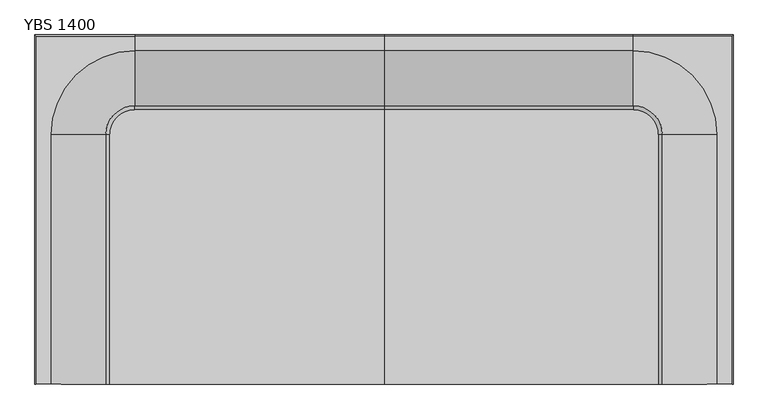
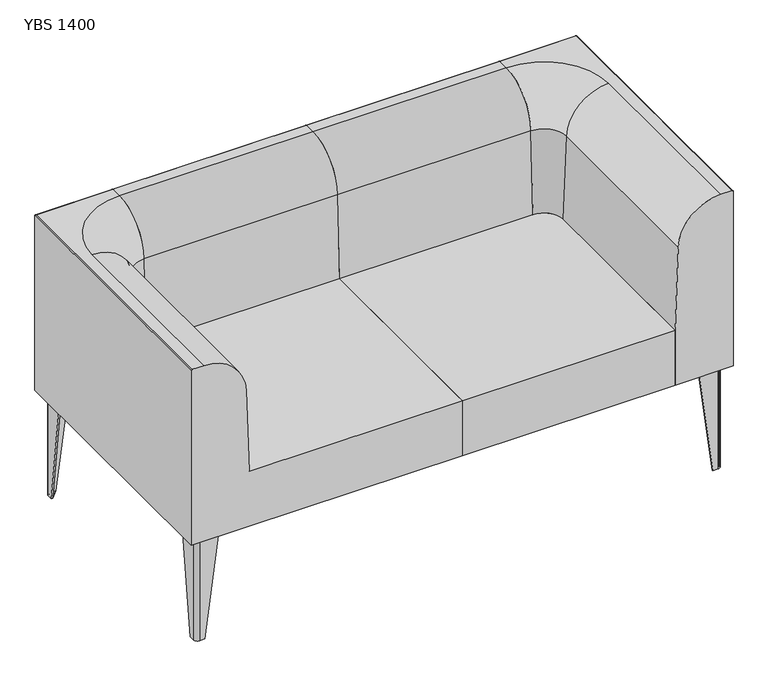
"""IFC4 building model written with IfcOpenShell, lengths in millimetres: furniture geometry, Mobiliário_Mobiliário de Escritório_LinhaYoung_Sofa Braço (Aço) - YB_Marelli : YBS 1400."""

import ifcopenshell
import ifcopenshell.guid

model = None  # the IFC model being written
_history = None  # IfcOwnerHistory: only IFC2X3 demands one
_inside = {}  # id of a spatial element -> (the spatial element, [elements in it])
_under = {}  # id of a project, library or spatial element -> (it, [spatial elements below it])
_declared = {}  # id of a project -> (the project, [libraries it declares])
_typed = {}  # id of a type object -> (the type object, [elements of that type])
_made_of = {}  # id of a material, layer set ... -> (it, [elements and type objects made of it])


def new_model(schema):
    """Start an empty IFC model of exactly this schema.

    Asked for "IFC4X3", IfcOpenShell would pick the latest addendum, in which some entities
    have other attributes; the version numbers below select the first issue.
    IFC2X3 requires an IfcOwnerHistory on every rooted entity: one is made here for all.
    """
    global model, _history
    if schema == "IFC4X3":
        model = ifcopenshell.file(schema_version=(4, 3, 0, 0))
    else:
        model = ifcopenshell.file(schema=schema)
    _inside.clear()
    _under.clear()
    _declared.clear()
    _typed.clear()
    _made_of.clear()
    _history = None
    if model.schema == "IFC2X3":
        org = make("IfcOrganization", Name="unknown")
        user = make(
            "IfcPersonAndOrganization",
            ThePerson=make("IfcPerson", FamilyName="unknown"),
            TheOrganization=org,
        )
        app = make(
            "IfcApplication",
            ApplicationDeveloper=org,
            Version="unknown",
            ApplicationFullName="unknown",
            ApplicationIdentifier="unknown",
        )
        _history = make(
            "IfcOwnerHistory",
            OwningUser=user,
            OwningApplication=app,
            ChangeAction="ADDED",
            CreationDate=0,
        )
    return model


def make(cls, **values):
    """One entity of the class cls with the attributes given. An attribute that is None is left unset."""
    return model.create_entity(
        cls, **{name: value for name, value in values.items() if value is not None}
    )


def rooted(cls, **values):
    """An entity with a GlobalId (a new one), such as an element, a storey or a relation."""
    return make(cls, GlobalId=ifcopenshell.guid.new(), OwnerHistory=_history, **values)


def si_unit(unit_type, name, prefix=None):
    """IfcSIUnit, for example si_unit("LENGTHUNIT", "METRE", prefix="MILLI")."""
    return make("IfcSIUnit", UnitType=unit_type, Prefix=prefix, Name=name)


def assignment(units):
    """IfcUnitAssignment: the units of a project."""
    return None if units is None else make("IfcUnitAssignment", Units=units)


def point(xyz):
    """IfcCartesianPoint."""
    return None if xyz is None else make("IfcCartesianPoint", Coordinates=xyz)


def direction(xyz):
    """IfcDirection."""
    return None if xyz is None else make("IfcDirection", DirectionRatios=xyz)


def frame(location, z_axis=None, x_axis=None):
    """IfcAxis2Placement3D, a coordinate frame: its origin and axes. An axis left out is left unset."""
    return make(
        "IfcAxis2Placement3D",
        Location=point(location),
        Axis=direction(z_axis),
        RefDirection=direction(x_axis),
    )


def frame_2d(location, x_axis=None):
    """IfcAxis2Placement2D, a coordinate frame in the plane: its origin and x axis."""
    return make(
        "IfcAxis2Placement2D", Location=point(location), RefDirection=direction(x_axis)
    )


def origin():
    """The frame at (0, 0, 0) with its axes left unset."""
    return frame((0.0, 0.0, 0.0))


def origin_with_axes():
    """The frame at (0, 0, 0) with the z axis (0, 0, 1) and the x axis (1, 0, 0) written out."""
    return frame((0.0, 0.0, 0.0), z_axis=(0.0, 0.0, 1.0), x_axis=(1.0, 0.0, 0.0))


def place(relative_to, where):
    """IfcLocalPlacement: puts the frame where relative to a parent placement (None: the world)."""
    return make(
        "IfcLocalPlacement", PlacementRelTo=relative_to, RelativePlacement=where
    )


def context(
    kind, dimensions, precision=None, world=None, true_north=None, identifier=None
):
    """IfcGeometricRepresentationContext, for example the 3D "Model" context."""
    return make(
        "IfcGeometricRepresentationContext",
        ContextIdentifier=identifier,
        ContextType=kind,
        CoordinateSpaceDimension=dimensions,
        Precision=precision,
        WorldCoordinateSystem=world,
        TrueNorth=true_north,
    )


def project(units=None, contexts=None):
    """IfcProject with its units and contexts."""
    return rooted(
        "IfcProject",
        Name="project",
        RepresentationContexts=contexts,
        UnitsInContext=assignment(units),
    )


def spatial(cls, under=None, at=None, **own):
    """A site, building, storey or space (cls), placed at a placement, below another one or the project."""
    s = rooted(cls, ObjectPlacement=at, **own)
    if under is not None:
        _under.setdefault(under.id(), (under, []))[1].append(s)
    return s


def polyline(points):
    """IfcPolyline through the points."""
    return make("IfcPolyline", Points=[point(p) for p in points])


def circle_curve(where, radius):
    """IfcCircle in the frame where."""
    return make("IfcCircle", Position=where, Radius=radius)


def ellipse_curve(where, semi_axis1, semi_axis2):
    """IfcEllipse in the frame where."""
    return make(
        "IfcEllipse", Position=where, SemiAxis1=semi_axis1, SemiAxis2=semi_axis2
    )


def trimmed(basis, trim1, trim2, sense, master):
    """IfcTrimmedCurve: the piece of a basis curve between two trims."""
    return make(
        "IfcTrimmedCurve",
        BasisCurve=basis,
        Trim1=trim1,
        Trim2=trim2,
        SenseAgreement=sense,
        MasterRepresentation=master,
    )


def segment(curve, same_sense, transition):
    """IfcCompositeCurveSegment."""
    return make(
        "IfcCompositeCurveSegment",
        Transition=transition,
        SameSense=same_sense,
        ParentCurve=curve,
    )


def composite_curve(segments, self_intersect=None):
    """IfcCompositeCurve: segments joined end to end."""
    return make("IfcCompositeCurve", Segments=segments, SelfIntersect=self_intersect)


def outline(outer, holes=None, kind="AREA"):
    """IfcArbitraryClosedProfileDef: a profile drawn as a closed curve; with holes, ...WithVoids."""
    if holes is None:
        return make("IfcArbitraryClosedProfileDef", ProfileType=kind, OuterCurve=outer)
    return make(
        "IfcArbitraryProfileDefWithVoids",
        ProfileType=kind,
        OuterCurve=outer,
        InnerCurves=holes,
    )


def extrude(swept, where, along, depth):
    """IfcExtrudedAreaSolid: the profile swept, set in the frame where, extruded along a direction by depth."""
    return make(
        "IfcExtrudedAreaSolid",
        SweptArea=swept,
        Position=where,
        ExtrudedDirection=direction(along),
        Depth=depth,
    )


def shape(context_of_items, identifier, shape_type, items):
    """IfcShapeRepresentation: the items that make up one representation, for example the "Body"."""
    return make(
        "IfcShapeRepresentation",
        ContextOfItems=context_of_items,
        RepresentationIdentifier=identifier,
        RepresentationType=shape_type,
        Items=items,
    )


def source(mapping_origin, context_of_items, identifier, shape_type, items):
    """IfcRepresentationMap: a shape defined once, which mapped items show again and again."""
    return make(
        "IfcRepresentationMap",
        MappingOrigin=mapping_origin,
        MappedRepresentation=shape(context_of_items, identifier, shape_type, items),
    )


def transform(
    local_origin,
    x_axis=None,
    y_axis=None,
    z_axis=None,
    scale=None,
    scale2=None,
    scale3=None,
    uniform=True,
):
    """IfcCartesianTransformationOperator3D, or its non-uniform kind. x_axis, y_axis, z_axis: its Axis1, 2, 3."""
    if uniform:
        return make(
            "IfcCartesianTransformationOperator3D",
            Axis1=direction(x_axis),
            Axis2=direction(y_axis),
            LocalOrigin=point(local_origin),
            Scale=scale,
            Axis3=direction(z_axis),
        )
    return make(
        "IfcCartesianTransformationOperator3DnonUniform",
        Axis1=direction(x_axis),
        Axis2=direction(y_axis),
        LocalOrigin=point(local_origin),
        Scale=scale,
        Axis3=direction(z_axis),
        Scale2=scale2,
        Scale3=scale3,
    )


def mapped(mapping_source, mapping_target):
    """IfcMappedItem: shows the shape of a source again, moved by a transform."""
    return make(
        "IfcMappedItem", MappingSource=mapping_source, MappingTarget=mapping_target
    )


def made_of(thing, what):
    """Note that an element or type object is made of a material, layer set ...; save() writes the relation."""
    if what is not None:
        _made_of.setdefault(what.id(), (what, []))[1].append(thing)
    return thing


def element(
    cls,
    number,
    at=None,
    inside=None,
    cuts=None,
    type_object=None,
    material=None,
    context=None,
    identifier="Body",
    shape_type=None,
    held_by="IfcProductDefinitionShape",
    body=None,
    shapes=None,
    **own,
):
    """One element of the class cls, such as IfcWall. Its Tag is "e" and its number.

    at: its placement. inside: the storey or other place that contains it. cuts: it is an
    opening in that element (IfcRelVoidsElement). A single representation is given by context,
    identifier, shape_type and body (its items); several are given by shapes. held_by: the class
    of the entity that holds the representations. save() writes the other relations.
    """
    e = rooted(cls, Tag="e%d" % number, ObjectPlacement=at, **own)
    if body is not None:
        shapes = [shape(context, identifier, shape_type, body)]
    if shapes is not None:
        e.Representation = make(held_by, Representations=shapes)
    if inside is not None:
        _inside.setdefault(inside.id(), (inside, []))[1].append(e)
    if cuts is not None:
        rooted(
            "IfcRelVoidsElement", RelatingBuildingElement=cuts, RelatedOpeningElement=e
        )
    if type_object is not None:
        _typed.setdefault(type_object.id(), (type_object, []))[1].append(e)
    return made_of(e, material)


def aggregate(whole, parts):
    """IfcRelAggregates: a whole, such as a stair, and the parts it consists of."""
    return rooted("IfcRelAggregates", RelatingObject=whole, RelatedObjects=parts)


def save(model, path):
    """Write the relations noted so far, then the file.

    IfcRelAggregates (storeys below a building ...), IfcRelContainedInSpatialStructure (elements
    in a storey), IfcRelDefinesByType, IfcRelAssociatesMaterial and IfcRelDeclares: one each for
    every whole, place, type object, material and project.
    """
    for whole, parts in _under.values():
        aggregate(whole, parts)
    for where, things in _inside.values():
        rooted(
            "IfcRelContainedInSpatialStructure",
            RelatedElements=things,
            RelatingStructure=where,
        )
    for kind, things in _typed.values():
        rooted("IfcRelDefinesByType", RelatedObjects=things, RelatingType=kind)
    for what, things in _made_of.values():
        rooted("IfcRelAssociatesMaterial", RelatedObjects=things, RelatingMaterial=what)
    for by, libraries in _declared.values():
        rooted("IfcRelDeclares", RelatingContext=by, RelatedDefinitions=libraries)
    model.write(path)


def plane_surface(at):
    """IfcPlane: the flat surface through the origin of the frame at, square to its z axis."""
    return make("IfcPlane", Position=at)


def cylinder_surface(at, radius):
    """IfcCylindricalSurface: all points at the distance radius from the z axis of the frame at."""
    return make("IfcCylindricalSurface", Position=at, Radius=radius)


def revolved_surface(curve, axis_point, axis_direction):
    """IfcSurfaceOfRevolution: the curve turned about the line through axis_point along axis_direction."""
    return make(
        "IfcSurfaceOfRevolution",
        SweptCurve=make("IfcArbitraryOpenProfileDef", ProfileType="CURVE", Curve=curve),
        AxisPosition=make("IfcAxis1Placement", Location=point(axis_point), Axis=direction(axis_direction)),
    )


def advanced_brep(points, edges, surfaces, faces):
    """IfcAdvancedBrep: a solid bounded by faces that lie on surfaces and meet in shared edges.

    An edge is (start, end): straight between two places in points (the first is 0);
    or (start, end, curve); or (start, end, curve, False) where it runs against its curve.
    A face is (place in surfaces, loops), or (place, loops, False) where it looks against
    its surface's normal. A loop lists edges by number (the first is 1), with a minus sign
    where the edge is run from its end to its start. The first loop is the outer one.
    """
    corners = [point(p) for p in points]
    vertices = [make("IfcVertexPoint", VertexGeometry=c) for c in corners]
    made = []
    for start, end, *more in edges:
        made.append(
            make(
                "IfcEdgeCurve",
                EdgeStart=vertices[start],
                EdgeEnd=vertices[end],
                EdgeGeometry=more[0] if more else make("IfcPolyline", Points=[corners[start], corners[end]]),
                SameSense=more[1] if len(more) > 1 else True,
            )
        )
    hull = []
    for where, loops, *sense in faces:
        bounds = []
        for j, loop in enumerate(loops):
            ring = [make("IfcOrientedEdge", EdgeElement=made[abs(k) - 1], Orientation=k > 0) for k in loop]
            bounds.append(
                make(
                    "IfcFaceOuterBound" if j == 0 else "IfcFaceBound",
                    Bound=make("IfcEdgeLoop", EdgeList=ring),
                    Orientation=True,
                )
            )
        hull.append(make("IfcAdvancedFace", Bounds=bounds, FaceSurface=surfaces[where], SameSense=sense[0] if sense else True))
    return make("IfcAdvancedBrep", Outer=make("IfcClosedShell", CfsFaces=hull))


def ybs_1400_8f39f51c(model_context):
    return source(origin(), model_context, "Body", "SolidModel", [
        advanced_brep(
        [(20.0, 75.0, 280.0), (20.0, 25.0, 280.0), (30.0, 15.0, 280.0), (80.0, 15.0, 280.0), (80.0, 18.0, 280.0), (30.0, 18.0, 280.0), (23.0, 25.0, 280.0), (23.0, 75.0, 280.0), (20.0, 39.0, 0.0), (23.0, 39.0, 0.0), (23.0, 25.0, 0.0), (30.0, 18.0, 0.0), (44.0, 18.0, 0.0), (44.0, 15.0, 0.0), (30.0, 15.0, 0.0), (20.0, 25.0, 0.0)],
        [
            (0, 1),
            (1, 2, circle_curve(frame((30.0, 25.0, 280.0), z_axis=(0.0, 0.0, 1.0), x_axis=(0.0, -1.0, 0.0)), 10.0)),
            (2, 3),
            (3, 4),
            (4, 5),
            (5, 6, circle_curve(frame((30.0, 25.0, 280.0), z_axis=(0.0, 0.0, -1.0), x_axis=(-1.0, 0.0, 0.0)), 7.0)),
            (6, 7),
            (7, 0),
            (8, 9),
            (9, 10),
            (10, 11, circle_curve(frame((30.0, 25.0, 0.0), z_axis=(0.0, 0.0, 1.0), x_axis=(-1.0, 0.0, 0.0)), 7.0)),
            (11, 12),
            (12, 13),
            (13, 14),
            (14, 15, circle_curve(frame((30.0, 25.0, 0.0), z_axis=(0.0, 0.0, -1.0), x_axis=(0.0, -1.0, 0.0)), 10.0)),
            (15, 8),
            (15, 1),
            (0, 8),
            (14, 2),
            (13, 3),
            (12, 4),
            (11, 5),
            (10, 6),
            (9, 7),
        ],
        [
            plane_surface(frame((38.25, 33.25, 280.0), z_axis=(0.0, 0.0, 1.0), x_axis=(0.0, -1.0, 0.0))),
            plane_surface(frame((29.25, 24.25, 0.0), z_axis=(0.0, 0.0, -1.0), x_axis=(0.0, -1.0, 0.0))),
            plane_surface(frame((20.0, 32.0, 0.0), z_axis=(-1.0, 0.0, 0.0), x_axis=(0.0, -1.0, 0.0))),
            cylinder_surface(frame((30.0, 25.0, 0.0), z_axis=(0.0, 0.0, 1.0), x_axis=(0.0, -1.0, 0.0)), 10.0),
            plane_surface(frame((37.0, 15.0, 0.0), z_axis=(0.0, -1.0, 0.0), x_axis=(1.0, 0.0, 0.0))),
            plane_surface(frame((44.0, 16.5, 0.0), z_axis=(0.9918357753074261, 0.0, -0.12752174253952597), x_axis=(0.0, 1.0, 0.0))),
            plane_surface(frame((37.0, 18.0, 0.0), z_axis=(0.0, 1.0, 0.0), x_axis=(-1.0, 0.0, 0.0))),
            revolved_surface(polyline([(23.0, 25.0, 280.0), (23.0, 25.0, 0.0)]), (30.0, 25.0, 0.0), (0.0, 0.0, 1.0)),
            plane_surface(frame((23.0, 32.0, 0.0), z_axis=(1.0, 0.0, 0.0), x_axis=(0.0, 1.0, 0.0))),
            plane_surface(frame((21.5, 39.0, 0.0), z_axis=(0.0, 0.9918357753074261, -0.12752174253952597), x_axis=(-1.0, 0.0, 0.0))),
        ],
        [
            (0, [[1, 2, 3, 4, 5, 6, 7, 8]]),
            (1, [[9, 10, 11, 12, 13, 14, 15, 16]]),
            (2, [[-16, 17, -1, 18]]),
            (3, [[-15, 19, -2, -17]]),
            (4, [[-14, 20, -3, -19]]),
            (5, [[-13, 21, -4, -20]]),
            (6, [[-12, 22, -5, -21]]),
            (7, [[-11, 23, -6, -22]]),
            (8, [[-10, 24, -7, -23]]),
            (9, [[-9, -18, -8, -24]]),
        ],
    ),
        advanced_brep(
        [(1380.0, 75.0, 280.0), (1377.0, 75.0, 280.0), (1377.0, 25.0, 280.0), (1370.0, 18.0, 280.0), (1320.0, 18.0, 280.0), (1320.0, 15.0, 280.0), (1370.0, 15.0, 280.0), (1380.0, 25.0, 280.0), (1380.0, 39.0, 0.0), (1380.0, 25.0, 0.0), (1370.0, 15.0, 0.0), (1356.0, 15.0, 0.0), (1356.0, 18.0, 0.0), (1370.0, 18.0, 0.0), (1377.0, 25.0, 0.0), (1377.0, 39.0, 0.0)],
        [
            (0, 1),
            (1, 2),
            (2, 3, circle_curve(frame((1370.0, 25.0, 280.0), z_axis=(0.0, 0.0, -1.0), x_axis=(0.0, -1.0, 0.0)), 7.0)),
            (3, 4),
            (4, 5),
            (5, 6),
            (6, 7, circle_curve(frame((1370.0, 25.0, 280.0), z_axis=(0.0, 0.0, 1.0), x_axis=(1.0, 0.0, 0.0)), 10.0)),
            (7, 0),
            (8, 9),
            (9, 10, circle_curve(frame((1370.0, 25.0, 0.0), z_axis=(0.0, 0.0, -1.0), x_axis=(1.0, 0.0, 0.0)), 10.0)),
            (10, 11),
            (11, 12),
            (12, 13),
            (13, 14, circle_curve(frame((1370.0, 25.0, 0.0), z_axis=(0.0, 0.0, 1.0), x_axis=(0.0, -1.0, 0.0)), 7.0)),
            (14, 15),
            (15, 8),
            (8, 0),
            (7, 9),
            (6, 10),
            (5, 11),
            (4, 12),
            (3, 13),
            (2, 14),
            (1, 15),
        ],
        [
            plane_surface(frame((1361.75, 33.25, 280.0), z_axis=(0.0, 0.0, 1.0), x_axis=(-1.0, 0.0, 0.0))),
            plane_surface(frame((1370.75, 24.25, 0.0), z_axis=(0.0, 0.0, -1.0), x_axis=(-1.0, 0.0, 0.0))),
            plane_surface(frame((1380.0, 32.0, 0.0), z_axis=(1.0, 0.0, 0.0), x_axis=(0.0, 1.0, 0.0))),
            cylinder_surface(frame((1370.0, 25.0, 0.0), z_axis=(0.0, 0.0, 1.0), x_axis=(1.0, 0.0, 0.0)), 10.0),
            plane_surface(frame((1363.0, 15.0, 0.0), z_axis=(0.0, -1.0, 0.0), x_axis=(1.0, 0.0, 0.0))),
            plane_surface(frame((1356.0, 16.5, 0.0), z_axis=(-0.991835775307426, 0.0, -0.12752174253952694), x_axis=(0.0, -1.0, 0.0))),
            plane_surface(frame((1363.0, 18.0, 0.0), z_axis=(0.0, 1.0, 0.0), x_axis=(-1.0, 0.0, 0.0))),
            revolved_surface(polyline([(1370.0, 18.0, 280.0), (1370.0, 18.0, 0.0)]), (1370.0, 25.0, 0.0), (0.0, 0.0, 1.0)),
            plane_surface(frame((1377.0, 32.0, 0.0), z_axis=(-1.0, 0.0, 0.0), x_axis=(0.0, -1.0, 0.0))),
            plane_surface(frame((1378.5, 39.0, 0.0), z_axis=(0.0, 0.9918357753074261, -0.12752174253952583), x_axis=(-1.0, 0.0, 0.0))),
        ],
        [
            (0, [[1, 2, 3, 4, 5, 6, 7, 8]]),
            (1, [[9, 10, 11, 12, 13, 14, 15, 16]]),
            (2, [[-9, 17, -8, 18]]),
            (3, [[-10, -18, -7, 19]]),
            (4, [[-11, -19, -6, 20]]),
            (5, [[-12, -20, -5, 21]]),
            (6, [[-13, -21, -4, 22]]),
            (7, [[-14, -22, -3, 23]]),
            (8, [[-15, -23, -2, 24]]),
            (9, [[-16, -24, -1, -17]]),
        ],
    ),
        advanced_brep(
        [(20.0, 625.0, 280.0), (23.0, 625.0, 280.0), (23.0, 675.0, 280.0), (30.0, 682.0, 280.0), (80.0, 682.0, 280.0), (80.0, 685.0, 280.0), (30.0, 685.0, 280.0), (20.0, 675.0, 280.0), (20.0, 661.0, 0.0), (20.0, 675.0, 0.0), (30.0, 685.0, 0.0), (44.0, 685.0, 0.0), (44.0, 682.0, 0.0), (30.0, 682.0, 0.0), (23.0, 675.0, 0.0), (23.0, 661.0, 0.0)],
        [
            (0, 1),
            (1, 2),
            (2, 3, circle_curve(frame((30.0, 675.0, 280.0), z_axis=(0.0, 0.0, -1.0), x_axis=(0.0, 1.0, 0.0)), 7.0)),
            (3, 4),
            (4, 5),
            (5, 6),
            (6, 7, circle_curve(frame((30.0, 675.0, 280.0), z_axis=(0.0, 0.0, 1.0), x_axis=(-1.0, 0.0, 0.0)), 10.0)),
            (7, 0),
            (8, 9),
            (9, 10, circle_curve(frame((30.0, 675.0, 0.0), z_axis=(0.0, 0.0, -1.0), x_axis=(-1.0, 0.0, 0.0)), 10.0)),
            (10, 11),
            (11, 12),
            (12, 13),
            (13, 14, circle_curve(frame((30.0, 675.0, 0.0), z_axis=(0.0, 0.0, 1.0), x_axis=(0.0, 1.0, 0.0)), 7.0)),
            (14, 15),
            (15, 8),
            (8, 0),
            (7, 9),
            (6, 10),
            (5, 11),
            (4, 12),
            (3, 13),
            (2, 14),
            (1, 15),
        ],
        [
            plane_surface(frame((38.25, 666.75, 280.0), z_axis=(0.0, 0.0, 1.0), x_axis=(1.0, 0.0, 0.0))),
            plane_surface(frame((29.25, 675.75, 0.0), z_axis=(0.0, 0.0, -1.0), x_axis=(1.0, 0.0, 0.0))),
            plane_surface(frame((20.0, 668.0, 0.0), z_axis=(-1.0, 0.0, 0.0), x_axis=(0.0, -1.0, 0.0))),
            cylinder_surface(frame((30.0, 675.0, 0.0), z_axis=(0.0, 0.0, 1.0), x_axis=(-1.0, 0.0, 0.0)), 10.0),
            plane_surface(frame((37.0, 685.0, 0.0), z_axis=(0.0, 1.0, 0.0), x_axis=(-1.0, 0.0, 0.0))),
            plane_surface(frame((44.0, 683.5, 0.0), z_axis=(0.9918357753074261, 0.0, -0.12752174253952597), x_axis=(0.0, 1.0, 0.0))),
            plane_surface(frame((37.0, 682.0, 0.0), z_axis=(0.0, -1.0, 0.0), x_axis=(1.0, 0.0, 0.0))),
            revolved_surface(polyline([(30.0, 682.0, 280.0), (30.0, 682.0, 0.0)]), (30.0, 675.0, 0.0), (0.0, 0.0, 1.0)),
            plane_surface(frame((23.0, 668.0, 0.0), z_axis=(1.0, 0.0, 0.0), x_axis=(0.0, 1.0, 0.0))),
            plane_surface(frame((21.5, 661.0, 0.0), z_axis=(0.0, -0.9918357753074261, -0.127521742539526), x_axis=(1.0, 0.0, 0.0))),
        ],
        [
            (0, [[1, 2, 3, 4, 5, 6, 7, 8]]),
            (1, [[9, 10, 11, 12, 13, 14, 15, 16]]),
            (2, [[-9, 17, -8, 18]]),
            (3, [[-10, -18, -7, 19]]),
            (4, [[-11, -19, -6, 20]]),
            (5, [[-12, -20, -5, 21]]),
            (6, [[-13, -21, -4, 22]]),
            (7, [[-14, -22, -3, 23]]),
            (8, [[-15, -23, -2, 24]]),
            (9, [[-16, -24, -1, -17]]),
        ],
    ),
        advanced_brep(
        [(1380.0, 625.0, 280.0), (1380.0, 675.0, 280.0), (1370.0, 685.0, 280.0), (1320.0, 685.0, 280.0), (1320.0, 682.0, 280.0), (1370.0, 682.0, 280.0), (1377.0, 675.0, 280.0), (1377.0, 625.0, 280.0), (1380.0, 661.0, 0.0), (1377.0, 661.0, 0.0), (1377.0, 675.0, 0.0), (1370.0, 682.0, 0.0), (1356.0, 682.0, 0.0), (1356.0, 685.0, 0.0), (1370.0, 685.0, 0.0), (1380.0, 675.0, 0.0)],
        [
            (0, 1),
            (1, 2, circle_curve(frame((1370.0, 675.0, 280.0), z_axis=(0.0, 0.0, 1.0), x_axis=(0.0, 1.0, 0.0)), 10.0)),
            (2, 3),
            (3, 4),
            (4, 5),
            (5, 6, circle_curve(frame((1370.0, 675.0, 280.0), z_axis=(0.0, 0.0, -1.0), x_axis=(1.0, 0.0, 0.0)), 7.0)),
            (6, 7),
            (7, 0),
            (8, 9),
            (9, 10),
            (10, 11, circle_curve(frame((1370.0, 675.0, 0.0), z_axis=(0.0, 0.0, 1.0), x_axis=(1.0, 0.0, 0.0)), 7.0)),
            (11, 12),
            (12, 13),
            (13, 14),
            (14, 15, circle_curve(frame((1370.0, 675.0, 0.0), z_axis=(0.0, 0.0, -1.0), x_axis=(0.0, 1.0, 0.0)), 10.0)),
            (15, 8),
            (15, 1),
            (0, 8),
            (14, 2),
            (13, 3),
            (12, 4),
            (11, 5),
            (10, 6),
            (9, 7),
        ],
        [
            plane_surface(frame((1361.75, 666.75, 280.0), z_axis=(0.0, 0.0, 1.0), x_axis=(0.0, 1.0, 0.0))),
            plane_surface(frame((1370.75, 675.75, 0.0), z_axis=(0.0, 0.0, -1.0), x_axis=(0.0, 1.0, 0.0))),
            plane_surface(frame((1380.0, 668.0, 0.0), z_axis=(1.0, 0.0, 0.0), x_axis=(0.0, 1.0, 0.0))),
            cylinder_surface(frame((1370.0, 675.0, 0.0), z_axis=(0.0, 0.0, 1.0), x_axis=(0.0, 1.0, 0.0)), 10.0),
            plane_surface(frame((1363.0, 685.0, 0.0), z_axis=(0.0, 1.0, 0.0), x_axis=(-1.0, 0.0, 0.0))),
            plane_surface(frame((1356.0, 683.5, 0.0), z_axis=(-0.9918357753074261, 0.0, -0.127521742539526), x_axis=(0.0, -1.0, 0.0))),
            plane_surface(frame((1363.0, 682.0, 0.0), z_axis=(0.0, -1.0, 0.0), x_axis=(1.0, 0.0, 0.0))),
            revolved_surface(polyline([(1377.0, 675.0, 280.0), (1377.0, 675.0, 0.0)]), (1370.0, 675.0, 0.0), (0.0, 0.0, 1.0)),
            plane_surface(frame((1377.0, 668.0, 0.0), z_axis=(-1.0, 0.0, 0.0), x_axis=(0.0, -1.0, 0.0))),
            plane_surface(frame((1378.5, 661.0, 0.0), z_axis=(0.0, -0.9918357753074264, -0.12752174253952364), x_axis=(1.0, 0.0, 0.0))),
        ],
        [
            (0, [[1, 2, 3, 4, 5, 6, 7, 8]]),
            (1, [[9, 10, 11, 12, 13, 14, 15, 16]]),
            (2, [[-16, 17, -1, 18]]),
            (3, [[-15, 19, -2, -17]]),
            (4, [[-14, 20, -3, -19]]),
            (5, [[-13, 21, -4, -20]]),
            (6, [[-12, 22, -5, -21]]),
            (7, [[-11, 23, -6, -22]]),
            (8, [[-10, 24, -7, -23]]),
            (9, [[-9, -18, -8, -24]]),
        ],
    ),
        extrude(outline(composite_curve([segment(polyline([(23.0, 39.0), (44.0, 18.0), (30.0, 18.0)]), True, "CONTINUOUS"), segment(trimmed(circle_curve(frame_2d((30.0, 25.0)), 7.0), [point((30.0, 18.0))], [point((23.0, 25.0))], False, "CARTESIAN"), True, "CONTINUOUS"), segment(polyline([(23.0, 25.0), (23.0, 39.0)]), True, "CONTINUOUS")], self_intersect=False)), origin_with_axes(), (0.0, 0.0, 1.0), 1.0),
        extrude(outline(composite_curve([segment(polyline([(23.0, 661.0), (23.0, 675.0)]), True, "CONTINUOUS"), segment(trimmed(circle_curve(frame_2d((30.0, 675.0)), 7.0), [point((23.0, 675.0))], [point((30.0, 682.0))], False, "CARTESIAN"), True, "CONTINUOUS"), segment(polyline([(30.0, 682.0), (44.0, 682.0), (23.0, 661.0)]), True, "CONTINUOUS")], self_intersect=False)), origin_with_axes(), (0.0, 0.0, 1.0), 1.0),
        extrude(outline(composite_curve([segment(polyline([(1377.0, 39.0), (1377.0, 25.0)]), True, "CONTINUOUS"), segment(trimmed(circle_curve(frame_2d((1370.0, 25.0)), 7.0), [point((1377.0, 25.0))], [point((1370.0, 18.0))], False, "CARTESIAN"), True, "CONTINUOUS"), segment(polyline([(1370.0, 18.0), (1356.0, 18.0), (1377.0, 39.0)]), True, "CONTINUOUS")], self_intersect=False)), origin_with_axes(), (0.0, 0.0, 1.0), 1.0),
        extrude(outline(composite_curve([segment(polyline([(1377.0, 661.0), (1356.0, 682.0), (1370.0, 682.0)]), True, "CONTINUOUS"), segment(trimmed(circle_curve(frame_2d((1370.0, 675.0)), 7.0), [point((1370.0, 682.0))], [point((1377.0, 675.0))], False, "CARTESIAN"), True, "CONTINUOUS"), segment(polyline([(1377.0, 675.0), (1377.0, 661.0)]), True, "CONTINUOUS")], self_intersect=False)), origin_with_axes(), (0.0, 0.0, 1.0), 1.0),
        extrude(outline(composite_curve([segment(trimmed(circle_curve(frame_2d((30.0, 25.0)), 7.0), [point((30.0, 18.0))], [point((23.0, 25.0))], False, "CARTESIAN"), True, "CONTINUOUS"), segment(polyline([(23.0, 25.0), (23.0, 93.0)]), True, "CONTINUOUS"), segment(trimmed(circle_curve(frame_2d((28.0, 93.0)), 5.0), [point((23.0, 93.0))], [point((28.0, 98.0))], False, "CARTESIAN"), True, "CONTINUOUS"), segment(polyline([(28.0, 98.0), (51.9545624, 98.0)]), True, "CONTINUOUS"), segment(trimmed(circle_curve(frame_2d((52.6241051, 89.931755)), 8.0959783), [point((51.9545624, 98.0))], [point((58.520382, 95.479618))], False, "CARTESIAN"), True, "CONTINUOUS"), segment(polyline([(58.520382, 95.479618), (100.479618, 53.520382)]), True, "CONTINUOUS"), segment(trimmed(circle_curve(frame_2d((94.931755, 47.6241051)), 8.0959783), [point((100.479618, 53.520382))], [point((103.0, 46.9545624))], False, "CARTESIAN"), True, "CONTINUOUS"), segment(polyline([(103.0, 46.9545624), (103.0, 23.0)]), True, "CONTINUOUS"), segment(trimmed(circle_curve(frame_2d((98.0, 23.0)), 5.0), [point((103.0, 23.0))], [point((98.0, 18.0))], False, "CARTESIAN"), True, "CONTINUOUS"), segment(polyline([(98.0, 18.0), (30.0, 18.0)]), True, "CONTINUOUS")], self_intersect=False)), frame((0.0, 0.0, 279.0), z_axis=(0.0, 0.0, 1.0), x_axis=(1.0, 0.0, 0.0)), (0.0, 0.0, 1.0), 1.0),
        extrude(outline(composite_curve([segment(polyline([(30.0, 682.0), (98.0, 682.0)]), True, "CONTINUOUS"), segment(trimmed(circle_curve(frame_2d((98.0, 677.0)), 5.0), [point((98.0, 682.0))], [point((103.0, 677.0))], False, "CARTESIAN"), True, "CONTINUOUS"), segment(polyline([(103.0, 677.0), (103.0, 653.0454376)]), True, "CONTINUOUS"), segment(trimmed(circle_curve(frame_2d((94.931755, 652.3758949)), 8.0959783), [point((103.0, 653.0454376))], [point((100.479618, 646.479618))], False, "CARTESIAN"), True, "CONTINUOUS"), segment(polyline([(100.479618, 646.479618), (58.520382, 604.520382)]), True, "CONTINUOUS"), segment(trimmed(circle_curve(frame_2d((52.6241051, 610.068245)), 8.0959783), [point((58.520382, 604.520382))], [point((51.9545624, 602.0))], False, "CARTESIAN"), True, "CONTINUOUS"), segment(polyline([(51.9545624, 602.0), (28.0, 602.0)]), True, "CONTINUOUS"), segment(trimmed(circle_curve(frame_2d((28.0, 607.0)), 5.0), [point((28.0, 602.0))], [point((23.0, 607.0))], False, "CARTESIAN"), True, "CONTINUOUS"), segment(polyline([(23.0, 607.0), (23.0, 675.0)]), True, "CONTINUOUS"), segment(trimmed(circle_curve(frame_2d((30.0, 675.0)), 7.0), [point((23.0, 675.0))], [point((30.0, 682.0))], False, "CARTESIAN"), True, "CONTINUOUS")], self_intersect=False)), frame((0.0, 0.0, 279.0), z_axis=(0.0, 0.0, 1.0), x_axis=(1.0, 0.0, 0.0)), (0.0, 0.0, 1.0), 1.0),
        extrude(outline(composite_curve([segment(trimmed(circle_curve(frame_2d((1370.0, 675.0)), 7.0), [point((1370.0, 682.0))], [point((1377.0, 675.0))], False, "CARTESIAN"), True, "CONTINUOUS"), segment(polyline([(1377.0, 675.0), (1377.0, 607.0)]), True, "CONTINUOUS"), segment(trimmed(circle_curve(frame_2d((1372.0, 607.0)), 5.0), [point((1377.0, 607.0))], [point((1372.0, 602.0))], False, "CARTESIAN"), True, "CONTINUOUS"), segment(polyline([(1372.0, 602.0), (1348.0454376, 602.0)]), True, "CONTINUOUS"), segment(trimmed(circle_curve(frame_2d((1347.3758949, 610.068245)), 8.0959783), [point((1348.0454376, 602.0))], [point((1341.479618, 604.520382))], False, "CARTESIAN"), True, "CONTINUOUS"), segment(polyline([(1341.479618, 604.520382), (1299.520382, 646.479618)]), True, "CONTINUOUS"), segment(trimmed(circle_curve(frame_2d((1305.068245, 652.3758949)), 8.0959783), [point((1299.520382, 646.479618))], [point((1297.0, 653.0454376))], False, "CARTESIAN"), True, "CONTINUOUS"), segment(polyline([(1297.0, 653.0454376), (1297.0, 677.0)]), True, "CONTINUOUS"), segment(trimmed(circle_curve(frame_2d((1302.0, 677.0)), 5.0), [point((1297.0, 677.0))], [point((1302.0, 682.0))], False, "CARTESIAN"), True, "CONTINUOUS"), segment(polyline([(1302.0, 682.0), (1370.0, 682.0)]), True, "CONTINUOUS")], self_intersect=False)), frame((0.0, 0.0, 279.0), z_axis=(0.0, 0.0, 1.0), x_axis=(1.0, 0.0, 0.0)), (0.0, 0.0, 1.0), 1.0),
        extrude(outline(composite_curve([segment(polyline([(1370.0, 18.0), (1302.0, 18.0)]), True, "CONTINUOUS"), segment(trimmed(circle_curve(frame_2d((1302.0, 23.0)), 5.0), [point((1302.0, 18.0))], [point((1297.0, 23.0))], False, "CARTESIAN"), True, "CONTINUOUS"), segment(polyline([(1297.0, 23.0), (1297.0, 46.9545624)]), True, "CONTINUOUS"), segment(trimmed(circle_curve(frame_2d((1305.068245, 47.6241051)), 8.0959783), [point((1297.0, 46.9545624))], [point((1299.520382, 53.520382))], False, "CARTESIAN"), True, "CONTINUOUS"), segment(polyline([(1299.520382, 53.520382), (1341.479618, 95.479618)]), True, "CONTINUOUS"), segment(trimmed(circle_curve(frame_2d((1347.3758949, 89.931755)), 8.0959783), [point((1341.479618, 95.479618))], [point((1348.0454376, 98.0))], False, "CARTESIAN"), True, "CONTINUOUS"), segment(polyline([(1348.0454376, 98.0), (1372.0, 98.0)]), True, "CONTINUOUS"), segment(trimmed(circle_curve(frame_2d((1372.0, 93.0)), 5.0), [point((1372.0, 98.0))], [point((1377.0, 93.0))], False, "CARTESIAN"), True, "CONTINUOUS"), segment(polyline([(1377.0, 93.0), (1377.0, 25.0)]), True, "CONTINUOUS"), segment(trimmed(circle_curve(frame_2d((1370.0, 25.0)), 7.0), [point((1377.0, 25.0))], [point((1370.0, 18.0))], False, "CARTESIAN"), True, "CONTINUOUS")], self_intersect=False)), frame((0.0, 0.0, 279.0), z_axis=(0.0, 0.0, 1.0), x_axis=(1.0, 0.0, 0.0)), (0.0, 0.0, 1.0), 1.0),
        advanced_brep(
        [(1368.0, 0.0, 760.0), (1258.2568376, 0.0, 654.223651), (1250.0, 0.0, 430.0), (1250.0, 0.0, 280.0), (1400.0, 0.0, 280.0), (1400.0, 0.0, 756.9835797), (1396.9835797, 0.0, 760.0), (1200.0, 668.0, 760.0), (1368.0, 500.0, 760.0), (1396.9835797, 696.9835797, 760.0), (1200.0, 696.9835797, 760.0), (1258.2568376, 500.0, 654.223651), (1250.0, 500.0, 430.0), (1250.0, 500.0, 280.0), (1200.0, 550.0, 280.0), (1200.0, 700.0, 280.0), (1400.0, 700.0, 280.0), (1400.0, 700.0, 756.9835797), (1200.0, 558.2568376, 654.223651), (1200.0, 550.0, 430.0), (1200.0, 700.0, 756.9835797)],
        [
            (0, 1, circle_curve(frame((1368.0, 0.0, 650.1824561), z_axis=(0.0, -1.0, 0.0), x_axis=(-1.0, 0.0, 0.0)), 109.8175439)),
            (1, 2),
            (2, 3),
            (3, 4),
            (4, 5),
            (5, 6, circle_curve(frame((1396.9835797, 0.0, 756.9835797), z_axis=(0.0, -1.0, 0.0), x_axis=(-1.0, 0.0, 0.0)), 3.0164203)),
            (6, 0),
            (7, 8, circle_curve(frame((1200.0, 500.0, 760.0), z_axis=(0.0, 0.0, -1.0), x_axis=(1.0, 0.0, 0.0)), 168.0)),
            (8, 0),
            (6, 9),
            (9, 10),
            (10, 7),
            (8, 11, circle_curve(frame((1368.0, 500.0, 650.1824561), z_axis=(0.0, -1.0, 0.0), x_axis=(-1.0, 0.0, 0.0)), 109.8175439)),
            (11, 1),
            (11, 12),
            (12, 2),
            (12, 13),
            (13, 3),
            (13, 14, circle_curve(frame((1200.0, 500.0, 280.0), z_axis=(0.0, 0.0, 1.0), x_axis=(1.0, 0.0, 0.0)), 50.0)),
            (14, 15),
            (15, 16),
            (16, 4),
            (16, 17),
            (17, 5),
            (7, 18, circle_curve(frame((1200.0, 668.0, 650.1824561), z_axis=(1.0, 0.0, 0.0), x_axis=(0.0, -1.0, 0.0)), 109.8175439)),
            (18, 11, circle_curve(frame((1200.0, 500.0, 654.223651), z_axis=(0.0, 0.0, -1.0), x_axis=(1.0, 0.0, 0.0)), 58.2568376)),
            (18, 19),
            (19, 12, circle_curve(frame((1200.0, 500.0, 430.0), z_axis=(0.0, 0.0, -1.0), x_axis=(1.0, 0.0, 0.0)), 50.0)),
            (19, 14),
            (20, 10, circle_curve(frame((1200.0, 696.9835797, 756.9835797), z_axis=(1.0, 0.0, 0.0), x_axis=(0.0, 1.0, 0.0)), 3.0164203)),
            (9, 17, ellipse_curve(frame((1396.9835797, 696.9835797, 756.9835797), z_axis=(-0.7071067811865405, 0.7071067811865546, 0.0), x_axis=(0.7071067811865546, 0.7071067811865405, 0.0)), 4.2658626, 3.0164203)),
            (17, 20),
            (20, 15),
        ],
        [
            plane_surface(frame((1250.0, 0.0, 0.0), z_axis=(0.0, -1.0, 0.0), x_axis=(0.0, 0.0, 1.0))),
            plane_surface(frame((1400.0, 0.0, 760.0), z_axis=(0.0, 0.0, 1.0), x_axis=(0.0, 1.0, 0.0))),
            cylinder_surface(frame((1368.0, 0.0, 650.1824561), z_axis=(0.0, -1.0, 0.0), x_axis=(-1.0, 0.0, 0.0)), 109.8175439),
            plane_surface(frame((1258.2568376, 0.0, 654.223651), z_axis=(-0.9993226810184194, 0.0, 0.036799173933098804), x_axis=(0.0, 1.0, 0.0))),
            plane_surface(frame((1250.0, 0.0, 430.0), z_axis=(-1.0, 0.0, 0.0), x_axis=(0.0, 1.0, 0.0))),
            plane_surface(frame((1250.0, 0.0, 280.0), z_axis=(0.0, 0.0, -1.0), x_axis=(0.0, 1.0, 0.0))),
            plane_surface(frame((1400.0, 0.0, 280.0), z_axis=(1.0, 0.0, 0.0), x_axis=(0.0, 1.0, 0.0))),
            revolved_surface(trimmed(ellipse_curve(frame((1368.0, 500.0, 650.1824561), z_axis=(0.0, -1.0, 0.0), x_axis=(-1.0, 0.0, 0.0)), 109.8175439, 109.8175439), [point((1368.0, 500.0, 760.0))], [point((1258.2568376, 500.0, 654.223651))], True, "CARTESIAN"), (1200.0, 500.0, 0.0), (0.0, 0.0, 1.0)),
            revolved_surface(polyline([(1258.2568376, 500.0, 654.223651), (1250.0, 500.0, 430.0)]), (1200.0, 500.0, 0.0), (0.0, 0.0, 1.0)),
            revolved_surface(polyline([(1250.0, 500.0, 430.0), (1250.0, 500.0, 280.0)]), (1200.0, 500.0, 0.0), (0.0, 0.0, 1.0)),
            cylinder_surface(frame((1400.0, 696.9835797, 756.9835797), z_axis=(1.0, 0.0, 0.0), x_axis=(0.0, 1.0, 0.0)), 3.0164203),
            plane_surface(frame((1200.0, 550.0, 0.0), z_axis=(-1.0, 0.0, 0.0), x_axis=(0.0, 0.0, 1.0))),
            plane_surface(frame((1400.0, 700.0, 760.0), z_axis=(0.0, 1.0, 0.0), x_axis=(0.0, 0.0, -1.0))),
            cylinder_surface(frame((1396.9835797, 0.0, 756.9835797), z_axis=(0.0, 1.0, 0.0), x_axis=(-1.0, 0.0, 0.0)), 3.0164203),
        ],
        [
            (0, [[1, 2, 3, 4, 5, 6, 7]]),
            (1, [[8, 9, -7, 10, 11, 12]]),
            (2, [[-1, -9, 13, 14]]),
            (3, [[-2, -14, 15, 16]]),
            (4, [[-3, -16, 17, 18]]),
            (5, [[-4, -18, 19, 20, 21, 22]]),
            (6, [[-22, 23, 24, -5]]),
            (7, [[-8, 25, 26, -13]]),
            (8, [[-15, -26, 27, 28]]),
            (9, [[-17, -28, 29, -19]]),
            (10, [[30, -11, 31, 32]]),
            (11, [[-20, -29, -27, -25, -12, -30, 33]]),
            (12, [[-21, -33, -32, -23]]),
            (13, [[-6, -24, -31, -10]]),
        ],
    ),
        advanced_brep(
        [(200.0, 700.0, 756.9835797), (0.0, 700.0, 756.9835797), (3.0164203, 696.9835797, 760.0), (200.0, 696.9835797, 760.0), (700.0, 550.0, 430.0), (200.0, 550.0, 430.0), (150.0, 500.0, 430.0), (150.0, 0.0, 430.0), (700.0, 0.0, 430.0), (700.0, 550.0, 280.0), (200.0, 550.0, 280.0), (32.0, 0.0, 760.0), (32.0, 500.0, 760.0), (200.0, 668.0, 760.0), (3.0164203, 0.0, 760.0), (0.0, 700.0, 280.0), (200.0, 700.0, 280.0), (700.0, 0.0, 280.0), (0.0, 0.0, 280.0), (0.0, 0.0, 756.9835797), (141.7431624, 0.0, 654.223651), (141.7431624, 500.0, 654.223651), (200.0, 558.2568376, 654.223651)],
        [
            (0, 1),
            (1, 2, ellipse_curve(frame((3.0164203, 696.9835797, 756.9835797), z_axis=(0.7071067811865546, 0.7071067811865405, 0.0), x_axis=(0.7071067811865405, -0.7071067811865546, 0.0)), 4.2658626, 3.0164203)),
            (2, 3),
            (3, 0, circle_curve(frame((200.0, 696.9835797, 756.9835797), z_axis=(-1.0, 0.0, 0.0), x_axis=(0.0, 1.0, 0.0)), 3.0164203)),
            (4, 5),
            (5, 6, circle_curve(frame((200.0, 500.0, 430.0), z_axis=(0.0, 0.0, 1.0), x_axis=(-1.0, 0.0, 0.0)), 50.0)),
            (6, 7),
            (7, 8),
            (8, 4),
            (4, 9),
            (9, 10),
            (10, 5),
            (11, 12),
            (12, 13, circle_curve(frame((200.0, 500.0, 760.0), z_axis=(0.0, 0.0, -1.0), x_axis=(-1.0, 0.0, 0.0)), 168.0)),
            (13, 3),
            (2, 14),
            (14, 11),
            (15, 16),
            (16, 10),
            (9, 17),
            (17, 18),
            (18, 15),
            (15, 1),
            (0, 16),
            (18, 19),
            (19, 1),
            (19, 14, circle_curve(frame((3.0164203, 0.0, 756.9835797), z_axis=(0.0, 1.0, 0.0), x_axis=(-1.0, 0.0, 0.0)), 3.0164203)),
            (7, 20),
            (20, 11, circle_curve(frame((32.0, 0.0, 650.1824561), z_axis=(0.0, -1.0, 0.0), x_axis=(-1.0, 0.0, 0.0)), 109.8175439)),
            (17, 8),
            (20, 21),
            (21, 12, circle_curve(frame((32.0, 500.0, 650.1824561), z_axis=(0.0, -1.0, 0.0), x_axis=(-1.0, 0.0, 0.0)), 109.8175439)),
            (6, 21),
            (13, 22, circle_curve(frame((200.0, 668.0, 650.1824561), z_axis=(1.0, 0.0, 0.0), x_axis=(0.0, 1.0, 0.0)), 109.8175439)),
            (22, 5),
            (21, 22, circle_curve(frame((200.0, 500.0, 654.223651), z_axis=(0.0, 0.0, -1.0), x_axis=(-1.0, 0.0, 0.0)), 58.2568376)),
        ],
        [
            cylinder_surface(frame((1400.0, 696.9835797, 756.9835797), z_axis=(1.0, 0.0, 0.0), x_axis=(0.0, 1.0, 0.0)), 3.0164203),
            plane_surface(frame((200.0, 550.0, 430.0), z_axis=(0.0, 0.0, 1.0), x_axis=(-1.0, 0.0, 0.0))),
            plane_surface(frame((700.0, 550.0, 430.0), z_axis=(0.0, 1.0, 0.0), x_axis=(0.0, 0.0, -1.0))),
            plane_surface(frame((0.0, 500.0, 760.0), z_axis=(0.0, 0.0, 1.0), x_axis=(0.0, -1.0, 0.0))),
            plane_surface(frame((0.0, 500.0, 280.0), z_axis=(0.0, 0.0, -1.0), x_axis=(0.0, 1.0, 0.0))),
            plane_surface(frame((200.0, 700.0, 760.0), z_axis=(0.0, 1.0, 0.0), x_axis=(0.0, 0.0, -1.0))),
            plane_surface(frame((0.0, 700.0, 760.0), z_axis=(-1.0, 0.0, 0.0), x_axis=(0.0, 0.0, -1.0))),
            cylinder_surface(frame((3.0164203, 700.0, 756.9835797), z_axis=(0.0, 1.0, 0.0), x_axis=(-1.0, 0.0, 0.0)), 3.0164203),
            plane_surface(frame((150.0, 0.0, 0.0), z_axis=(0.0, -1.0, 0.0), x_axis=(0.0, 0.0, 1.0))),
            cylinder_surface(frame((32.0, 0.0, 650.1824561), z_axis=(0.0, -1.0, 0.0), x_axis=(-1.0, 0.0, 0.0)), 109.8175439),
            plane_surface(frame((150.0, 0.0, 430.0), z_axis=(0.9993226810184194, 0.0, 0.036799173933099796), x_axis=(0.0, 1.0, 0.0))),
            plane_surface(frame((200.0, 550.0, 0.0), z_axis=(1.0, 0.0, 0.0), x_axis=(0.0, 0.0, 1.0))),
            revolved_surface(trimmed(ellipse_curve(frame((32.0, 500.0, 650.1824561), z_axis=(0.0, -1.0, 0.0), x_axis=(-1.0, 0.0, 0.0)), 109.8175439, 109.8175439), [point((141.7431624, 500.0, 654.223651))], [point((32.0, 500.0, 760.0))], True, "CARTESIAN"), (200.0, 500.0, 0.0), (0.0, 0.0, -1.0)),
            revolved_surface(polyline([(150.0, 500.0, 430.0), (141.7431624, 500.0, 654.223651)]), (200.0, 500.0, 0.0), (0.0, 0.0, -1.0)),
            plane_surface(frame((700.0, 0.0, 430.0), z_axis=(1.0, 0.0, 0.0), x_axis=(0.0, 0.0, -1.0))),
        ],
        [
            (0, [[1, 2, 3, 4]]),
            (1, [[5, 6, 7, 8, 9]]),
            (2, [[-5, 10, 11, 12]]),
            (3, [[13, 14, 15, -3, 16, 17]]),
            (4, [[18, 19, -11, 20, 21, 22]]),
            (5, [[-18, 23, -1, 24]]),
            (6, [[-22, 25, 26, -23]]),
            (7, [[-16, -2, -26, 27]]),
            (8, [[28, 29, -17, -27, -25, -21, 30, -8]]),
            (9, [[-29, 31, 32, -13]]),
            (10, [[-28, -7, 33, -31]]),
            (11, [[-19, -24, -4, -15, 34, 35, -12]]),
            (12, [[-14, -32, 36, -34]]),
            (13, [[-33, -6, -35, -36]]),
            (14, [[-9, -30, -20, -10]]),
        ],
    ),
        extrude(outline(composite_curve([segment(polyline([(700.0, 550.0), (1200.0, 550.0)]), True, "CONTINUOUS"), segment(trimmed(circle_curve(frame_2d((1200.0, 500.0)), 50.0), [point((1200.0, 550.0))], [point((1250.0, 500.0))], False, "CARTESIAN"), True, "CONTINUOUS"), segment(polyline([(1250.0, 500.0), (1250.0, 0.0), (700.0, 0.0), (700.0, 550.0)]), True, "CONTINUOUS")], self_intersect=False)), frame((0.0, 0.0, 280.0), z_axis=(0.0, 0.0, 1.0), x_axis=(1.0, 0.0, 0.0)), (0.0, 0.0, 1.0), 150.0),
        extrude(outline(composite_curve([segment(polyline([(550.0, 430.0), (558.2568376, 654.223651)]), True, "CONTINUOUS"), segment(trimmed(circle_curve(frame_2d((668.0, 650.1824561)), 109.8175439), [point((558.2568376, 654.223651))], [point((668.0, 760.0))], False, "CARTESIAN"), True, "CONTINUOUS"), segment(polyline([(668.0, 760.0), (696.9835797, 760.0)]), True, "CONTINUOUS"), segment(trimmed(circle_curve(frame_2d((696.9835797, 756.9835797)), 3.0164203), [point((696.9835797, 760.0))], [point((700.0, 756.9835797))], False, "CARTESIAN"), True, "CONTINUOUS"), segment(polyline([(700.0, 756.9835797), (700.0, 280.0), (550.0, 280.0), (550.0, 430.0)]), True, "CONTINUOUS")], self_intersect=False)), frame((200.0, 0.0, 0.0), z_axis=(1.0, 0.0, 0.0), x_axis=(0.0, 1.0, 0.0)), (0.0, 0.0, 1.0), 500.0),
        extrude(outline(composite_curve([segment(polyline([(550.0, 430.0), (558.2568376, 654.223651)]), True, "CONTINUOUS"), segment(trimmed(circle_curve(frame_2d((668.0, 650.1824561)), 109.8175439), [point((558.2568376, 654.223651))], [point((668.0, 760.0))], False, "CARTESIAN"), True, "CONTINUOUS"), segment(polyline([(668.0, 760.0), (696.9835797, 760.0)]), True, "CONTINUOUS"), segment(trimmed(circle_curve(frame_2d((696.9835797, 756.9835797)), 3.0164203), [point((696.9835797, 760.0))], [point((700.0, 756.9835797))], False, "CARTESIAN"), True, "CONTINUOUS"), segment(polyline([(700.0, 756.9835797), (700.0, 280.0), (550.0, 280.0), (550.0, 430.0)]), True, "CONTINUOUS")], self_intersect=False)), frame((700.0, 0.0, 0.0), z_axis=(1.0, 0.0, 0.0), x_axis=(0.0, 1.0, 0.0)), (0.0, 0.0, 1.0), 500.0),
    ])


if __name__ == "__main__":
    model = new_model("IFC4")
    model_context = context("Model", 3, world=origin())
    ifc_project = project(units=[si_unit("LENGTHUNIT", "METRE", prefix="MILLI")], contexts=[model_context])
    site = spatial("IfcSite", under=ifc_project)
    building = spatial("IfcBuilding", under=site)
    placement = place(None, origin())
    ybs_1400_shape = ybs_1400_8f39f51c(model_context)
    element("IfcFurniture", 1, ObjectType="Mobiliário_Mobiliário de Escritório_LinhaYoung_Sofa Braço (Aço) - YB_Marelli : YBS 1400", at=placement, inside=building, context=model_context, shape_type="MappedRepresentation", body=[
        mapped(ybs_1400_shape, transform((0.0, 0.0, 0.0), x_axis=(1.0, 0.0, 0.0), y_axis=(0.0, 1.0, 0.0), z_axis=(0.0, 0.0, 1.0))),
    ])
    save(model, "model.ifc")
